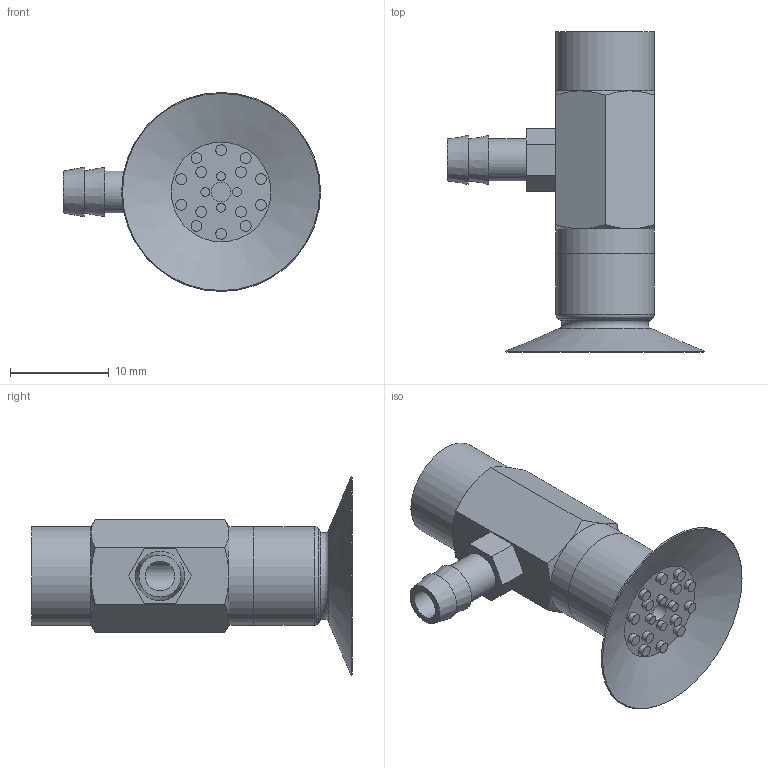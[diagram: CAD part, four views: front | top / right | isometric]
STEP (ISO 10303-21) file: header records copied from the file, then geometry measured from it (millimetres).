
FILE_DESCRIPTION(('STEP AP203'),'1');
FILE_NAME('.stp','2024-08-09T02:43:17',(' '),(' '),'Spatial InterOp 3D',' ',' ');
FILE_SCHEMA(('CONFIG_CONTROL_DESIGN'));
Length unit declared in the file: millimetre
Products named in the file (3): BBPAYK-20A-※; BPAYK-20A; BPAG-20A-※
Assembly tree (2 placements, depth 2):
  BBPAYK-20A-※
    BPAYK-20A
    BPAG-20A-※
Bounding box: 26.09 x 32.5 x 20.19 mm (x, y, z)
Volume: 2468.7 mm3; surface area: 2643.5 mm2
Topology: 2 solids, 2 shells, 109 faces, 209 edges, 131 vertices
Faces by surface type: plane 46, cylinder 32, cone 21, torus 10
Full cylindrical faces by diameter (mm): 0.9 x4, 1.1 x14, 2 x1, 3 x2, 3.242 x1, 4 x2, 4.26 x1, 5 x1, 6 x2, 10 x3
Entity records: 2762 total; most frequent: CARTESIAN_POINT 648, DIRECTION 434, ORIENTED_EDGE 292, AXIS2_PLACEMENT_3D 204, EDGE_LOOP 189, FACE_OUTER_BOUND 149, EDGE_CURVE 146, VERTEX_POINT 120
